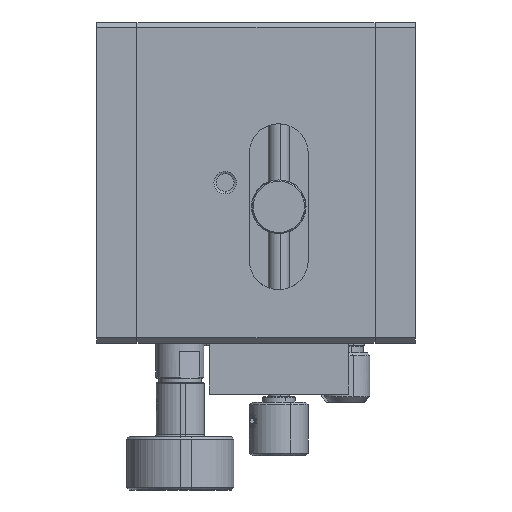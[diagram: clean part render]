
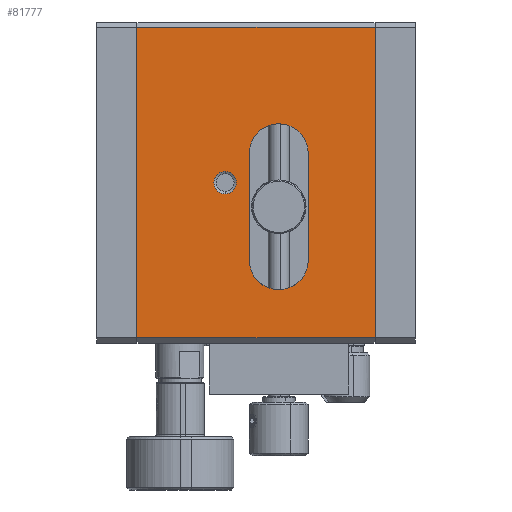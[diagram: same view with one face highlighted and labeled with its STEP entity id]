
A CAD part, left-side view. The second image highlights one B-rep face of the part: STEP entity #81777.
In plain terms, the highlighted planar face has unit normal (-1, 0, 0).
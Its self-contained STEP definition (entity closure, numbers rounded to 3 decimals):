
#2689 = ORIENTED_EDGE ( 'NONE', *, *, #84759, .F. ) ;
#2883 = DIRECTION ( 'NONE',  ( 0., -1., 0. ) ) ;
#3866 = ORIENTED_EDGE ( 'NONE', *, *, #81914, .F. ) ;
#4054 = DIRECTION ( 'NONE',  ( -1., 0., 0. ) ) ;
#4484 = CARTESIAN_POINT ( 'NONE',  ( -60., 52., -1. ) ) ;
#4707 = CARTESIAN_POINT ( 'NONE',  ( -60., 52., -1. ) ) ;
#6757 = LINE ( 'NONE', #105305, #117172 ) ;
#7148 = CIRCLE ( 'NONE', #62500, 5.5 ) ;
#7192 = EDGE_CURVE ( 'NONE', #57981, #50260, #12206, .T. ) ;
#10439 = VERTEX_POINT ( 'NONE', #4707 ) ;
#10659 = DIRECTION ( 'NONE',  ( 0., -1., 0. ) ) ;
#11646 = ORIENTED_EDGE ( 'NONE', *, *, #27729, .T. ) ;
#12206 = LINE ( 'NONE', #94012, #45724 ) ;
#13168 = CARTESIAN_POINT ( 'NONE',  ( -60., 31., -24.5 ) ) ;
#13966 = DIRECTION ( 'NONE',  ( 0., 0., -1. ) ) ;
#14033 = DIRECTION ( 'NONE',  ( 1., 0., 0. ) ) ;
#15806 = LINE ( 'NONE', #43308, #16020 ) ;
#16020 = VECTOR ( 'NONE', #70769, 1000. ) ;
#16306 = DIRECTION ( 'NONE',  ( 0., 0., -1. ) ) ;
#16380 = VERTEX_POINT ( 'NONE', #107931 ) ;
#20794 = EDGE_CURVE ( 'NONE', #67907, #39405, #7148, .T. ) ;
#22059 = DIRECTION ( 'NONE',  ( 0., 0., 1. ) ) ;
#24435 = DIRECTION ( 'NONE',  ( 0., 0., 1. ) ) ;
#25368 = FACE_BOUND ( 'NONE', #74649, .T. ) ;
#25429 = VERTEX_POINT ( 'NONE', #60479 ) ;
#26028 = DIRECTION ( 'NONE',  ( -1., 0., 0. ) ) ;
#27465 = AXIS2_PLACEMENT_3D ( 'NONE', #116114, #14033, #88672 ) ;
#27729 = EDGE_CURVE ( 'NONE', #10439, #68863, #6757, .T. ) ;
#30216 = CARTESIAN_POINT ( 'NONE',  ( -60., 31., -44.5 ) ) ;
#32358 = VECTOR ( 'NONE', #24435, 1000. ) ;
#33768 = DIRECTION ( 'NONE',  ( 0., 1., 0. ) ) ;
#35101 = ORIENTED_EDGE ( 'NONE', *, *, #20794, .F. ) ;
#35676 = ORIENTED_EDGE ( 'NONE', *, *, #68266, .T. ) ;
#39139 = ORIENTED_EDGE ( 'NONE', *, *, #57792, .F. ) ;
#39405 = VERTEX_POINT ( 'NONE', #117748 ) ;
#40958 = LINE ( 'NONE', #4484, #111381 ) ;
#41125 = ORIENTED_EDGE ( 'NONE', *, *, #108420, .F. ) ;
#42208 = CARTESIAN_POINT ( 'NONE',  ( -60., 7.5, -59. ) ) ;
#43308 = CARTESIAN_POINT ( 'NONE',  ( -60., 31., -44.5 ) ) ;
#43423 = ORIENTED_EDGE ( 'NONE', *, *, #61829, .F. ) ;
#43965 = CARTESIAN_POINT ( 'NONE',  ( -60., 35.5, -30. ) ) ;
#45365 = CARTESIAN_POINT ( 'NONE',  ( -60., 25.5, -44.5 ) ) ;
#45724 = VECTOR ( 'NONE', #13966, 1000. ) ;
#48330 = AXIS2_PLACEMENT_3D ( 'NONE', #76344, #4054, #2883 ) ;
#49534 = CARTESIAN_POINT ( 'NONE',  ( -60., 35.5, -30. ) ) ;
#50260 = VERTEX_POINT ( 'NONE', #42208 ) ;
#50473 = DIRECTION ( 'NONE',  ( 0., -1., 0. ) ) ;
#57792 = EDGE_CURVE ( 'NONE', #39405, #16380, #78768, .T. ) ;
#57981 = VERTEX_POINT ( 'NONE', #105625 ) ;
#60029 = CARTESIAN_POINT ( 'NONE',  ( -60., 7.5, -59. ) ) ;
#60479 = CARTESIAN_POINT ( 'NONE',  ( -60., 35.5, -32.1 ) ) ;
#60637 = EDGE_LOOP ( 'NONE', ( #41125, #43423 ) ) ;
#61829 = EDGE_CURVE ( 'NONE', #25429, #72395, #85953, .T. ) ;
#61874 = DIRECTION ( 'NONE',  ( 0., 0., 1. ) ) ;
#62500 = AXIS2_PLACEMENT_3D ( 'NONE', #45365, #117580, #10659 ) ;
#67907 = VERTEX_POINT ( 'NONE', #30216 ) ;
#68266 = EDGE_CURVE ( 'NONE', #68863, #50260, #78529, .T. ) ;
#68863 = VERTEX_POINT ( 'NONE', #100266 ) ;
#69616 = CARTESIAN_POINT ( 'NONE',  ( -60., 35.5, -27.9 ) ) ;
#70769 = DIRECTION ( 'NONE',  ( 0., 0., -1. ) ) ;
#72395 = VERTEX_POINT ( 'NONE', #69616 ) ;
#74649 = EDGE_LOOP ( 'NONE', ( #39139, #35101, #3866, #2689 ) ) ;
#76344 = CARTESIAN_POINT ( 'NONE',  ( -60., 25.5, -24.5 ) ) ;
#78529 = LINE ( 'NONE', #60029, #106808 ) ;
#78536 = FACE_OUTER_BOUND ( 'NONE', #86688, .T. ) ;
#78768 = LINE ( 'NONE', #107403, #32358 ) ;
#80454 = VERTEX_POINT ( 'NONE', #13168 ) ;
#81777 = ADVANCED_FACE ( 'NONE', ( #87503, #25368, #78536 ), #86905, .F. ) ;
#81914 = EDGE_CURVE ( 'NONE', #80454, #67907, #15806, .T. ) ;
#82539 = EDGE_CURVE ( 'NONE', #57981, #10439, #40958, .T. ) ;
#84759 = EDGE_CURVE ( 'NONE', #16380, #80454, #115299, .T. ) ;
#85953 = CIRCLE ( 'NONE', #101198, 2.1 ) ;
#86688 = EDGE_LOOP ( 'NONE', ( #108431, #106654, #11646, #35676 ) ) ;
#86905 = PLANE ( 'NONE',  #27465 ) ;
#87503 = FACE_BOUND ( 'NONE', #60637, .T. ) ;
#88672 = DIRECTION ( 'NONE',  ( 0., 1., 0. ) ) ;
#93048 = AXIS2_PLACEMENT_3D ( 'NONE', #43965, #26028, #61874 ) ;
#94012 = CARTESIAN_POINT ( 'NONE',  ( -60., 7.5, 0. ) ) ;
#100266 = CARTESIAN_POINT ( 'NONE',  ( -60., 52., -59. ) ) ;
#101198 = AXIS2_PLACEMENT_3D ( 'NONE', #49534, #103848, #22059 ) ;
#103848 = DIRECTION ( 'NONE',  ( -1., 0., 0. ) ) ;
#105305 = CARTESIAN_POINT ( 'NONE',  ( -60., 52., 0. ) ) ;
#105625 = CARTESIAN_POINT ( 'NONE',  ( -60., 7.5, -1. ) ) ;
#106654 = ORIENTED_EDGE ( 'NONE', *, *, #82539, .T. ) ;
#106808 = VECTOR ( 'NONE', #50473, 1000. ) ;
#107403 = CARTESIAN_POINT ( 'NONE',  ( -60., 20., -44.5 ) ) ;
#107931 = CARTESIAN_POINT ( 'NONE',  ( -60., 20., -24.5 ) ) ;
#108301 = CIRCLE ( 'NONE', #93048, 2.1 ) ;
#108420 = EDGE_CURVE ( 'NONE', #72395, #25429, #108301, .T. ) ;
#108431 = ORIENTED_EDGE ( 'NONE', *, *, #7192, .F. ) ;
#111381 = VECTOR ( 'NONE', #33768, 1000. ) ;
#115299 = CIRCLE ( 'NONE', #48330, 5.5 ) ;
#116114 = CARTESIAN_POINT ( 'NONE',  ( -60., 52., 0. ) ) ;
#117172 = VECTOR ( 'NONE', #16306, 1000. ) ;
#117580 = DIRECTION ( 'NONE',  ( -1., 0., 0. ) ) ;
#117748 = CARTESIAN_POINT ( 'NONE',  ( -60., 20., -44.5 ) ) ;
